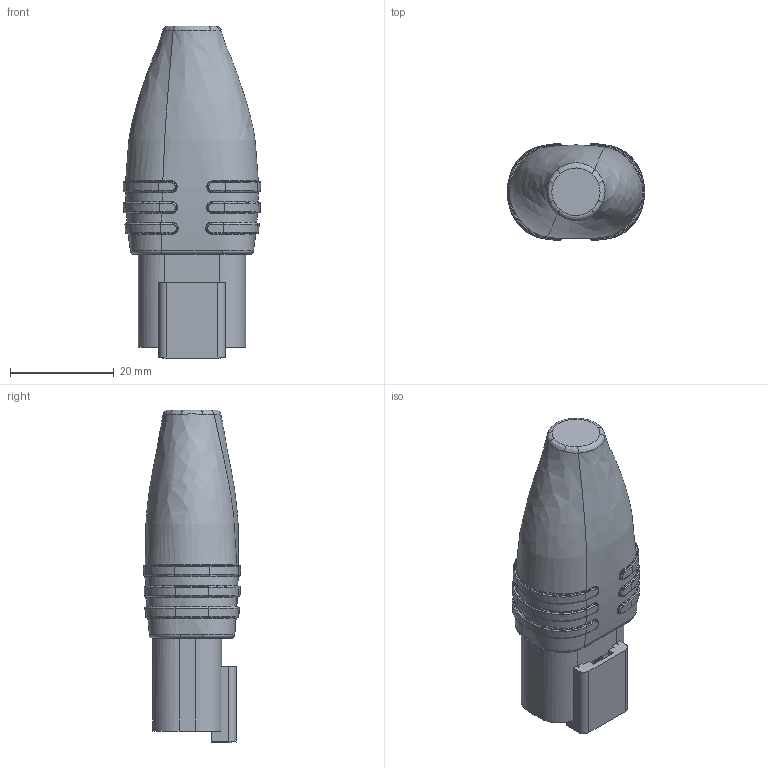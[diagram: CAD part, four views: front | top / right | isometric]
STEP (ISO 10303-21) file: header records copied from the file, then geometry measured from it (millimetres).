
FILE_DESCRIPTION (( 'STEP AP203' ), '1' );
FILE_NAME ('DTM04-3P.step', '2018-03-27T20:32:57', ( '' ), ( '' ), 'SwSTEP 2.0', 'SolidWorks 2015', '' );
FILE_SCHEMA (( 'CONFIG_CONTROL_DESIGN' ));
Length unit declared in the file: millimetre
Products named in the file (2): DTM04-3P
Bounding box: 26.48 x 18.73 x 64 mm (x, y, z)
Volume: 15743.3 mm3; surface area: 5651.7 mm2
Topology: 1 solids, 1 shells, 375 faces, 919 edges, 543 vertices
Faces by surface type: bspline 186, plane 108, cylinder 38, torus 26, cone 13, sphere 4
Entity records: 20795 total; most frequent: CARTESIAN_POINT 13199, ORIENTED_EDGE 1838, DIRECTION 1170, EDGE_CURVE 919, VERTEX_POINT 543, AXIS2_PLACEMENT_3D 454, B_SPLINE_CURVE_WITH_KNOTS 394, EDGE_LOOP 378
